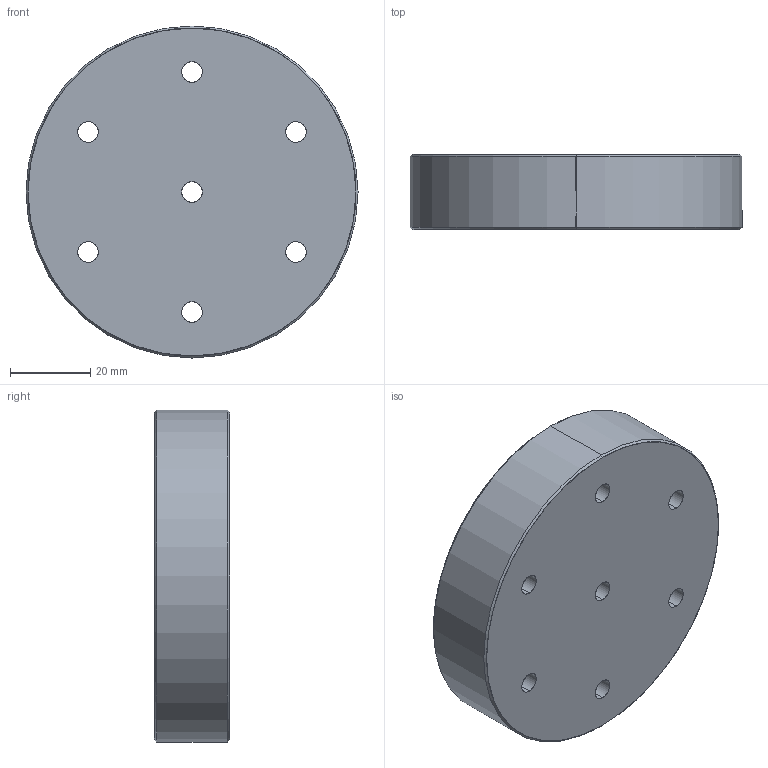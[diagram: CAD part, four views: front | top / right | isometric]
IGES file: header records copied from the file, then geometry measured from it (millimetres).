
Start section: SolidWorks IGES file using analytic representation for surfaces
Global section: file name: \\SERVER3\Design\_New Design Drive Folder List\_Design Vault\AAI\Modular Round Tube Connectors\Solidworks Models\STP Files\12202013\1.000 Inch Modular Connectors\DRP-002-0533-00.IGS; native system: SolidWorks 2013; preprocessor: SolidWorks 2013; author: tbraun; date: 131220.115805; units: inch
Bounding box: 82.55 x 18.67 x 82.55 mm (x, y, z)
Surface area: 17200.2 mm2 (no closed solid volume)
Topology: 0 solids, 0 shells, 22 faces, 656 edges, 656 vertices
Faces by surface type: revolution 20, bspline 2
